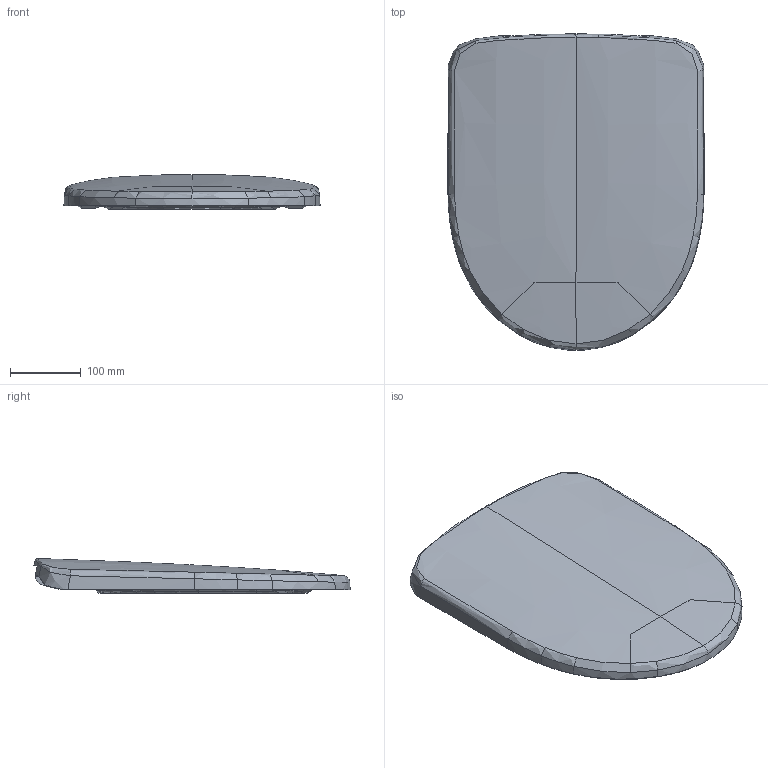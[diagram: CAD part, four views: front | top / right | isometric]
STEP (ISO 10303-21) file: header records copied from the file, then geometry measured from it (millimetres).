
FILE_DESCRIPTION(/* description */ (''),/* implementation_level */ '2;1');
FILE_NAME(/* name */ 'C:\Planerdaten\Export PLA\500.330.01.1\stp\500333.stp',/* time_stamp */ '2020-04-28T10:15:52+02:00',/* author */ ('JANAN'),/* organization */ (''),/* preprocessor_version */ 'ST-DEVELOPER v16.13',/* originating_system */ 'Autodesk Inventor 2018',/* authorisation */ '');
FILE_SCHEMA (('AUTOMOTIVE_DESIGN { 1 0 10303 214 3 1 1 }'));
Length unit declared in the file: millimetre
Products named in the file (1): WC-Sitz Ge+Snv Bef-o Absa
Bounding box: 362.49 x 447.35 x 49.38 mm (x, y, z)
Volume: 1419129.5 mm3; surface area: 538221.2 mm2
Topology: 2 solids, 2 shells, 481 faces, 1194 edges, 704 vertices
Faces by surface type: bspline 312, cone 54, plane 44, torus 41, cylinder 28, sphere 2
Full cylindrical faces by diameter (mm): 11.2 x2
Entity records: 63632 total; most frequent: CARTESIAN_POINT 54055, ORIENTED_EDGE 2328, DIRECTION 1306, EDGE_CURVE 1164, VERTEX_POINT 698, B_SPLINE_CURVE_WITH_KNOTS 604, AXIS2_PLACEMENT_3D 592, EDGE_LOOP 498
